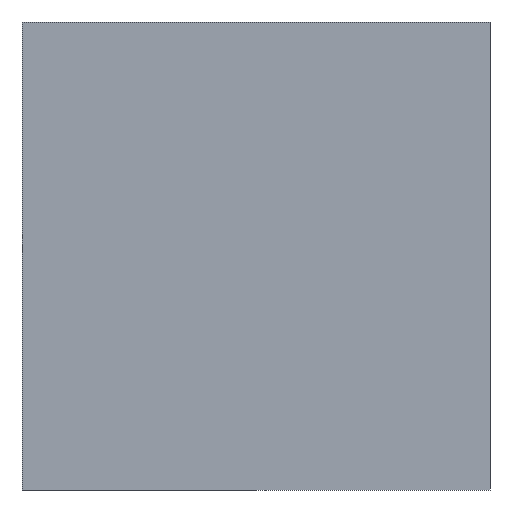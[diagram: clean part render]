
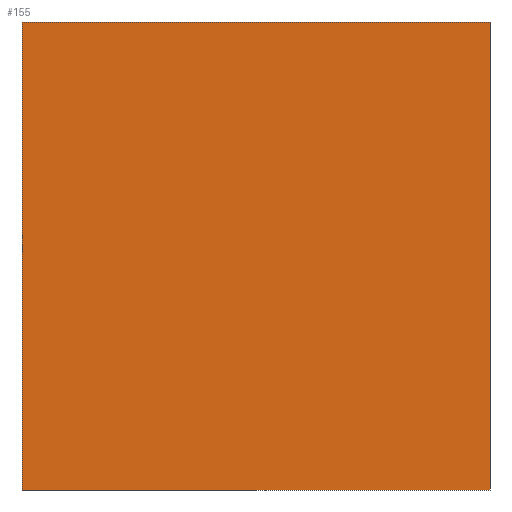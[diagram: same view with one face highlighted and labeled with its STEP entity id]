
A CAD part, left-side view. The second image highlights one B-rep face of the part: STEP entity #155.
In plain terms, the highlighted planar face has unit normal (-1, 0, 0).
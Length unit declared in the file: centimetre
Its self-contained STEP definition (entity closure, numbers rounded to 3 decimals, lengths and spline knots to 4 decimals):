
#1 = DIRECTION ( 'NONE',  ( 0., 0., -1. ) ) ;
#10 = LINE ( 'NONE', #269, #69 ) ;
#28 = LINE ( 'NONE', #347, #300 ) ;
#69 = VECTOR ( 'NONE', #130, 100. ) ;
#76 = ORIENTED_EDGE ( 'NONE', *, *, #181, .F. ) ;
#79 = CARTESIAN_POINT ( 'NONE',  ( 0., 1000., 1000. ) ) ;
#81 = VERTEX_POINT ( 'NONE', #358 ) ;
#98 = LINE ( 'NONE', #295, #369 ) ;
#101 = EDGE_CURVE ( 'NONE', #81, #202, #98, .T. ) ;
#122 = DIRECTION ( 'NONE',  ( 0., -1., 0. ) ) ;
#130 = DIRECTION ( 'NONE',  ( 0., 0., -1. ) ) ;
#144 = CARTESIAN_POINT ( 'NONE',  ( 0., 1000., 1000. ) ) ;
#155 = ADVANCED_FACE ( 'NONE', ( #207 ), #329, .F. ) ;
#156 = DIRECTION ( 'NONE',  ( 0., -1., 0. ) ) ;
#173 = EDGE_CURVE ( 'NONE', #262, #202, #28, .T. ) ;
#181 = EDGE_CURVE ( 'NONE', #363, #262, #383, .T. ) ;
#198 = CARTESIAN_POINT ( 'NONE',  ( 0., 0., 0. ) ) ;
#202 = VERTEX_POINT ( 'NONE', #198 ) ;
#207 = FACE_OUTER_BOUND ( 'NONE', #231, .T. ) ;
#227 = CARTESIAN_POINT ( 'NONE',  ( 0., 1000., 1000. ) ) ;
#231 = EDGE_LOOP ( 'NONE', ( #340, #360, #76, #279 ) ) ;
#262 = VERTEX_POINT ( 'NONE', #266 ) ;
#266 = CARTESIAN_POINT ( 'NONE',  ( 0., 0., 1000. ) ) ;
#269 = CARTESIAN_POINT ( 'NONE',  ( 0., 1000., 1000. ) ) ;
#279 = ORIENTED_EDGE ( 'NONE', *, *, #306, .T. ) ;
#285 = VECTOR ( 'NONE', #122, 100. ) ;
#295 = CARTESIAN_POINT ( 'NONE',  ( 0., 1000., 0. ) ) ;
#300 = VECTOR ( 'NONE', #1, 100. ) ;
#306 = EDGE_CURVE ( 'NONE', #363, #81, #10, .T. ) ;
#314 = DIRECTION ( 'NONE',  ( 1., 0., 0. ) ) ;
#323 = DIRECTION ( 'NONE',  ( 0., 0., -1. ) ) ;
#329 = PLANE ( 'NONE',  #331 ) ;
#331 = AXIS2_PLACEMENT_3D ( 'NONE', #79, #314, #323 ) ;
#340 = ORIENTED_EDGE ( 'NONE', *, *, #101, .T. ) ;
#347 = CARTESIAN_POINT ( 'NONE',  ( 0., 0., 1000. ) ) ;
#358 = CARTESIAN_POINT ( 'NONE',  ( 0., 1000., 0. ) ) ;
#360 = ORIENTED_EDGE ( 'NONE', *, *, #173, .F. ) ;
#363 = VERTEX_POINT ( 'NONE', #144 ) ;
#369 = VECTOR ( 'NONE', #156, 100. ) ;
#383 = LINE ( 'NONE', #227, #285 ) ;
